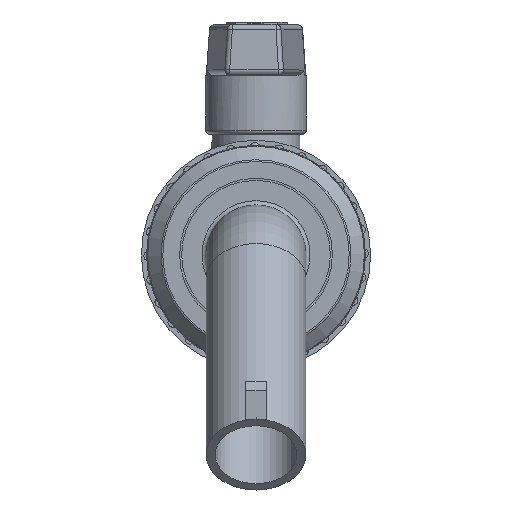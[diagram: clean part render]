
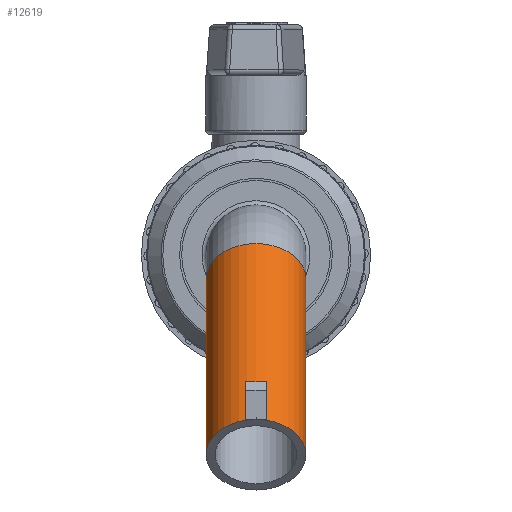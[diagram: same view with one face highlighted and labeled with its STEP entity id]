
A CAD part, top view. The second image highlights one B-rep face of the part: STEP entity #12619.
In plain terms, the highlighted cylindrical face has radius 15.24 mm (diameter 30.48 mm), a full revolution.
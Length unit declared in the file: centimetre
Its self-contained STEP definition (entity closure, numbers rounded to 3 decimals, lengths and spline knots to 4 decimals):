
#2516=VECTOR('',#15884,1.);
#3250=LINE('',#55791,#2516);
#4880=VERTEX_POINT('',#55792);
#4881=VERTEX_POINT('',#55793);
#4890=VERTEX_POINT('',#55822);
#5292=CIRCLE('',#13562,1.524);
#5293=CIRCLE('',#13563,1.524);
#6964=EDGE_CURVE('',#4880,#4881,#3250,.T.);
#6979=EDGE_CURVE('',#4881,#4881,#5292,.T.);
#6980=EDGE_CURVE('',#4890,#4890,#5293,.T.);
#10342=ORIENTED_EDGE('',*,*,#6979,.T.);
#10343=ORIENTED_EDGE('',*,*,#6964,.F.);
#10344=ORIENTED_EDGE('',*,*,#6964,.T.);
#10345=ORIENTED_EDGE('',*,*,#6980,.F.);
#11132=EDGE_LOOP('',(#10342,#10343,#10344));
#11133=EDGE_LOOP('',(#10345));
#11923=FACE_BOUND('',#11132,.T.);
#11924=FACE_BOUND('',#11133,.T.);
#12619=ADVANCED_FACE('',(#11923,#11924),#55999,.T.);
#13561=AXIS2_PLACEMENT_3D('',#55819,#15902,#15903);
#13562=AXIS2_PLACEMENT_3D('',#55820,#15904,#15905);
#13563=AXIS2_PLACEMENT_3D('',#55821,#15906,#15907);
#15884=DIRECTION('',(0.,0.707,0.707));
#15902=DIRECTION('',(0.,0.707,0.707));
#15903=DIRECTION('',(1.524,0.,0.));
#15904=DIRECTION('',(0.,-0.707,-0.707));
#15905=DIRECTION('',(1.524,0.,0.));
#15906=DIRECTION('',(0.,-0.707,-0.707));
#15907=DIRECTION('',(1.524,0.,0.));
#55791=CARTESIAN_POINT('',(0.,4.7042,9.6769));
#55792=CARTESIAN_POINT('',(0.,4.354,9.3267));
#55793=CARTESIAN_POINT('',(0.,5.0545,10.0271));
#55819=CARTESIAN_POINT('',(0.,0.7439,3.5614));
#55820=CARTESIAN_POINT('',(0.,6.1321,8.9495));
#55821=CARTESIAN_POINT('',(0.,0.7439,3.5614));
#55822=CARTESIAN_POINT('',(1.524,0.7439,3.5614));
#55999=CYLINDRICAL_SURFACE('',#13561,1.524);
